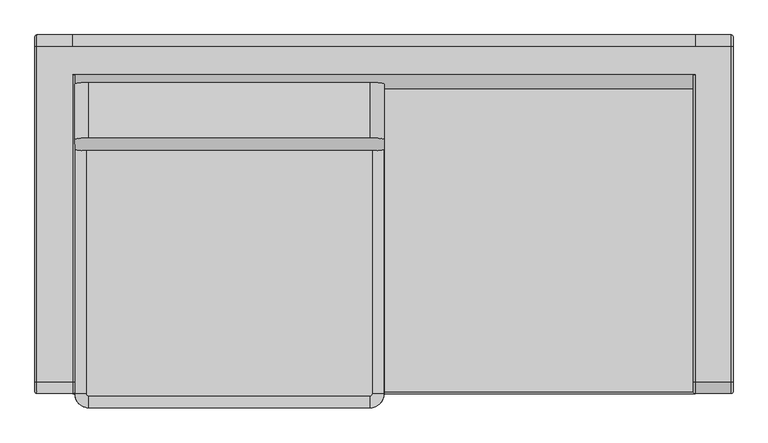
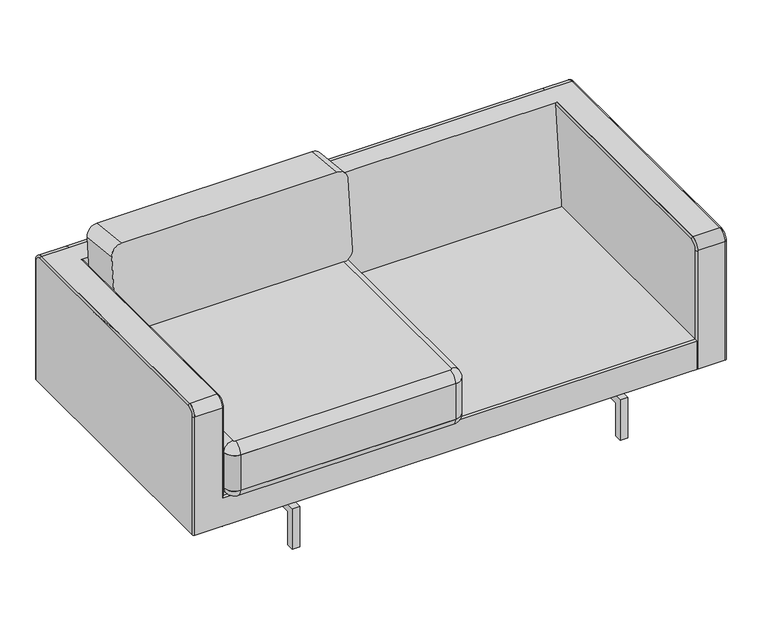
"""IFC4 building model written with IfcOpenShell, lengths in millimetres: furniture geometry, Sofa_Bensen_Lite_LIT200IT : Sofa_Bensen_Lite_LIT200IT."""

from ifc_helpers import new_model, si_unit, point, frame, frame_2d, origin, place, context, project, spatial, polyline, circle_curve, ellipse_curve, trimmed, segment, composite_curve, outline, extrude, source, transform, mapped, element, save
from ifc_brep_helpers import plane_surface, cylinder_surface, revolved_surface, advanced_brep


def furniture_c92ce7f1(model_context):
    return source(origin(), model_context, "Body", "SolidModel", [
        extrude(outline(composite_curve([segment(polyline([(-35.0, -35.0), (-35.0, 195.0)]), True, "CONTINUOUS"), segment(trimmed(circle_curve(frame_2d((0.0, 195.0)), 35.0), [point((-35.0, 195.0))], [point((0.0, 230.0))], False, "CARTESIAN"), True, "CONTINUOUS"), segment(polyline([(0.0, 230.0), (705.0, 230.0)]), True, "CONTINUOUS"), segment(trimmed(circle_curve(frame_2d((705.0, 195.0)), 35.0), [point((705.0, 230.0))], [point((740.0, 195.0))], False, "CARTESIAN"), True, "CONTINUOUS"), segment(polyline([(740.0, 195.0), (740.0, -35.0)]), True, "CONTINUOUS"), segment(trimmed(circle_curve(frame_2d((705.0, -35.0)), 35.0), [point((740.0, -35.0))], [point((705.0, -70.0))], False, "CARTESIAN"), True, "CONTINUOUS"), segment(polyline([(705.0, -70.0), (0.0, -70.0)]), True, "CONTINUOUS"), segment(trimmed(circle_curve(frame_2d((0.0, -35.0)), 35.0), [point((0.0, -70.0))], [point((-35.0, -35.0))], False, "CARTESIAN"), True, "CONTINUOUS")], self_intersect=False)), frame((-740.0, 306.1621456, 496.5659701), z_axis=(0.0, -0.9945218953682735, 0.10452846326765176), x_axis=(1.0, 0.0, 0.0)), (0.0, 0.0, 1.0), 140.0),
        advanced_brep(
        [(-35.0, -455.7516759, 445.4976523), (-30.0, -450.7516759, 445.4976523), (-30.0, 279.2483241, 445.4976523), (-35.0, 284.2483241, 445.4976523), (-740.0, 284.2483241, 445.4976523), (-745.0, 279.2483241, 445.4976523), (-745.0, -450.7516759, 445.4976523), (-740.0, -455.7516759, 445.4976523), (0.0, -450.7516759, 415.4976523), (-35.0, -485.7516759, 415.4976523), (-740.0, -485.7516759, 415.4976523), (-775.0, -450.7516759, 415.4976523), (-775.0, 279.2483241, 415.4976523), (-740.0, 314.2483241, 415.4976523), (-35.0, 314.2483241, 415.4976523), (0.0, 279.2483241, 415.4976523)],
        [
            (0, 1, circle_curve(frame((-35.0, -450.7516759, 445.4976523), z_axis=(0.0, 0.0, 1.0), x_axis=(1.0, 0.0, 0.0)), 5.0)),
            (1, 2),
            (2, 3, circle_curve(frame((-35.0, 279.2483241, 445.4976523), z_axis=(0.0, 0.0, 1.0), x_axis=(0.0, 1.0, 0.0)), 5.0)),
            (3, 4),
            (4, 5, circle_curve(frame((-740.0, 279.2483241, 445.4976523), z_axis=(0.0, 0.0, 1.0), x_axis=(-1.0, 0.0, 0.0)), 5.0)),
            (5, 6),
            (6, 7, circle_curve(frame((-740.0, -450.7516759, 445.4976523), z_axis=(0.0, 0.0, 1.0), x_axis=(0.0, -1.0, 0.0)), 5.0)),
            (7, 0),
            (8, 9, circle_curve(frame((-35.0, -450.7516759, 415.4976523), z_axis=(0.0, 0.0, -1.0), x_axis=(1.0, 0.0, 0.0)), 35.0)),
            (9, 10),
            (10, 11, circle_curve(frame((-740.0, -450.7516759, 415.4976523), z_axis=(0.0, 0.0, -1.0), x_axis=(0.0, -1.0, 0.0)), 35.0)),
            (11, 12),
            (12, 13, circle_curve(frame((-740.0, 279.2483241, 415.4976523), z_axis=(0.0, 0.0, -1.0), x_axis=(-1.0, 0.0, 0.0)), 35.0)),
            (13, 14),
            (14, 15, circle_curve(frame((-35.0, 279.2483241, 415.4976523), z_axis=(0.0, 0.0, -1.0), x_axis=(0.0, 1.0, 0.0)), 35.0)),
            (15, 8),
            (8, 1, circle_curve(frame((-30.0, -450.7516759, 415.4976523), z_axis=(0.0, -1.0, 0.0), x_axis=(1.0, 0.0, 0.0)), 30.0)),
            (0, 9, circle_curve(frame((-35.0, -455.7516759, 415.4976523), z_axis=(1.0, 0.0, 0.0), x_axis=(0.0, -1.0, 0.0)), 30.0)),
            (7, 10, circle_curve(frame((-740.0, -455.7516759, 415.4976523), z_axis=(1.0, 0.0, 0.0), x_axis=(0.0, -1.0, 0.0)), 30.0)),
            (6, 11, circle_curve(frame((-745.0, -450.7516759, 415.4976523), z_axis=(0.0, -1.0, 0.0), x_axis=(-1.0, 0.0, 0.0)), 30.0)),
            (5, 12, circle_curve(frame((-745.0, 279.2483241, 415.4976523), z_axis=(0.0, -1.0, 0.0), x_axis=(-1.0, 0.0, 0.0)), 30.0)),
            (4, 13, circle_curve(frame((-740.0, 284.2483241, 415.4976523), z_axis=(-1.0, 0.0, 0.0), x_axis=(0.0, 1.0, 0.0)), 30.0)),
            (3, 14, circle_curve(frame((-35.0, 284.2483241, 415.4976523), z_axis=(-1.0, 0.0, 0.0), x_axis=(0.0, 1.0, 0.0)), 30.0)),
            (2, 15, circle_curve(frame((-30.0, 279.2483241, 415.4976523), z_axis=(0.0, 1.0, 0.0), x_axis=(1.0, 0.0, 0.0)), 30.0)),
        ],
        [
            plane_surface(frame((-35.0, 274.2483241, 445.4976523), z_axis=(0.0, 0.0, 1.0), x_axis=(1.0, 0.0, 0.0))),
            plane_surface(frame((-35.0, 274.2483241, 415.4976523), z_axis=(0.0, 0.0, -1.0), x_axis=(-1.0, 0.0, 0.0))),
            revolved_surface(trimmed(ellipse_curve(frame((-30.0, -450.7516759, 415.4976523), z_axis=(0.0, 1.0, 0.0), x_axis=(1.0, 0.0, 0.0)), 30.0, 30.0), [point((-30.0, -450.7516759, 445.4976523))], [point((0.0, -450.7516759, 415.4976523))], True, "CARTESIAN"), (-35.0, -450.7516759, 245.4976523), (0.0, 0.0, -1.0)),
            cylinder_surface(frame((-35.0, -455.7516759, 415.4976523), z_axis=(1.0, 0.0, 0.0), x_axis=(0.0, -1.0, 0.0)), 30.0),
            revolved_surface(trimmed(ellipse_curve(frame((-740.0, -455.7516759, 415.4976523), z_axis=(1.0, 0.0, 0.0), x_axis=(0.0, -1.0, 0.0)), 30.0, 30.0), [point((-740.0, -455.7516759, 445.4976523))], [point((-740.0, -485.7516759, 415.4976523))], True, "CARTESIAN"), (-740.0, -450.7516759, 245.4976523), (0.0, 0.0, -1.0)),
            cylinder_surface(frame((-745.0, -450.7516759, 415.4976523), z_axis=(0.0, -1.0, 0.0), x_axis=(-1.0, 0.0, 0.0)), 30.0),
            revolved_surface(trimmed(ellipse_curve(frame((-745.0, 279.2483241, 415.4976523), z_axis=(0.0, -1.0, 0.0), x_axis=(-1.0, 0.0, 0.0)), 30.0, 30.0), [point((-745.0, 279.2483241, 445.4976523))], [point((-775.0, 279.2483241, 415.4976523))], True, "CARTESIAN"), (-740.0, 279.2483241, 245.4976523), (0.0, 0.0, -1.0)),
            cylinder_surface(frame((-740.0, 284.2483241, 415.4976523), z_axis=(-1.0, 0.0, 0.0), x_axis=(0.0, 1.0, 0.0)), 30.0),
            revolved_surface(trimmed(ellipse_curve(frame((-35.0, 284.2483241, 415.4976523), z_axis=(-1.0, 0.0, 0.0), x_axis=(0.0, 1.0, 0.0)), 30.0, 30.0), [point((-35.0, 284.2483241, 445.4976523))], [point((-35.0, 314.2483241, 415.4976523))], True, "CARTESIAN"), (-35.0, 279.2483241, 245.4976523), (0.0, 0.0, -1.0)),
            cylinder_surface(frame((-30.0, 279.2483241, 415.4976523), z_axis=(0.0, 1.0, 0.0), x_axis=(1.0, 0.0, 0.0)), 30.0),
        ],
        [
            (0, [[1, 2, 3, 4, 5, 6, 7, 8]]),
            (1, [[9, 10, 11, 12, 13, 14, 15, 16]]),
            (2, [[-9, 17, -1, 18]]),
            (3, [[-18, -8, 19, -10]]),
            (4, [[-19, -7, 20, -11]]),
            (5, [[-20, -6, 21, -12]]),
            (6, [[-21, -5, 22, -13]]),
            (7, [[-22, -4, 23, -14]]),
            (8, [[-23, -3, 24, -15]]),
            (9, [[-17, -16, -24, -2]]),
        ],
    ),
        advanced_brep(
        [(-35.0, -485.7516759, 291.4976523), (0.0, -450.7516759, 291.4976523), (0.0, 279.2483241, 291.4976523), (-35.0, 314.2483241, 291.4976523), (-740.0, 314.2483241, 291.4976523), (-775.0, 279.2483241, 291.4976523), (-775.0, -450.7516759, 291.4976523), (-740.0, -485.7516759, 291.4976523), (-30.0, -450.7516759, 261.4976523), (-35.0, -455.7516759, 261.4976523), (-740.0, -455.7516759, 261.4976523), (-745.0, -450.7516759, 261.4976523), (-745.0, 279.2483241, 261.4976523), (-740.0, 284.2483241, 261.4976523), (-35.0, 284.2483241, 261.4976523), (-30.0, 279.2483241, 261.4976523)],
        [
            (0, 1, circle_curve(frame((-35.0, -450.7516759, 291.4976523), z_axis=(0.0, 0.0, 1.0), x_axis=(1.0, 0.0, 0.0)), 35.0)),
            (1, 2),
            (2, 3, circle_curve(frame((-35.0, 279.2483241, 291.4976523), z_axis=(0.0, 0.0, 1.0), x_axis=(0.0, 1.0, 0.0)), 35.0)),
            (3, 4),
            (4, 5, circle_curve(frame((-740.0, 279.2483241, 291.4976523), z_axis=(0.0, 0.0, 1.0), x_axis=(-1.0, 0.0, 0.0)), 35.0)),
            (5, 6),
            (6, 7, circle_curve(frame((-740.0, -450.7516759, 291.4976523), z_axis=(0.0, 0.0, 1.0), x_axis=(0.0, -1.0, 0.0)), 35.0)),
            (7, 0),
            (8, 9, circle_curve(frame((-35.0, -450.7516759, 261.4976523), z_axis=(0.0, 0.0, -1.0), x_axis=(1.0, 0.0, 0.0)), 5.0)),
            (9, 10),
            (10, 11, circle_curve(frame((-740.0, -450.7516759, 261.4976523), z_axis=(0.0, 0.0, -1.0), x_axis=(0.0, -1.0, 0.0)), 5.0)),
            (11, 12),
            (12, 13, circle_curve(frame((-740.0, 279.2483241, 261.4976523), z_axis=(0.0, 0.0, -1.0), x_axis=(-1.0, 0.0, 0.0)), 5.0)),
            (13, 14),
            (14, 15, circle_curve(frame((-35.0, 279.2483241, 261.4976523), z_axis=(0.0, 0.0, -1.0), x_axis=(0.0, 1.0, 0.0)), 5.0)),
            (15, 8),
            (8, 1, circle_curve(frame((-30.0, -450.7516759, 291.4976523), z_axis=(0.0, -1.0, 0.0), x_axis=(1.0, 0.0, 0.0)), 30.0)),
            (0, 9, circle_curve(frame((-35.0, -455.7516759, 291.4976523), z_axis=(1.0, 0.0, 0.0), x_axis=(0.0, -1.0, 0.0)), 30.0)),
            (7, 10, circle_curve(frame((-740.0, -455.7516759, 291.4976523), z_axis=(1.0, 0.0, 0.0), x_axis=(0.0, -1.0, 0.0)), 30.0)),
            (6, 11, circle_curve(frame((-745.0, -450.7516759, 291.4976523), z_axis=(0.0, -1.0, 0.0), x_axis=(-1.0, 0.0, 0.0)), 30.0)),
            (5, 12, circle_curve(frame((-745.0, 279.2483241, 291.4976523), z_axis=(0.0, -1.0, 0.0), x_axis=(-1.0, 0.0, 0.0)), 30.0)),
            (4, 13, circle_curve(frame((-740.0, 284.2483241, 291.4976523), z_axis=(-1.0, 0.0, 0.0), x_axis=(0.0, 1.0, 0.0)), 30.0)),
            (3, 14, circle_curve(frame((-35.0, 284.2483241, 291.4976523), z_axis=(-1.0, 0.0, 0.0), x_axis=(0.0, 1.0, 0.0)), 30.0)),
            (2, 15, circle_curve(frame((-30.0, 279.2483241, 291.4976523), z_axis=(0.0, 1.0, 0.0), x_axis=(1.0, 0.0, 0.0)), 30.0)),
        ],
        [
            plane_surface(frame((-35.0, 274.2483241, 291.4976523), z_axis=(0.0, 0.0, 1.0), x_axis=(1.0, 0.0, 0.0))),
            plane_surface(frame((-35.0, 274.2483241, 261.4976523), z_axis=(0.0, 0.0, -1.0), x_axis=(-1.0, 0.0, 0.0))),
            revolved_surface(trimmed(ellipse_curve(frame((-30.0, -450.7516759, 291.4976523), z_axis=(0.0, 1.0, 0.0), x_axis=(1.0, 0.0, 0.0)), 30.0, 30.0), [point((0.0, -450.7516759, 291.4976523))], [point((-30.0, -450.7516759, 261.4976523))], True, "CARTESIAN"), (-35.0, -450.7516759, 291.4976523), (0.0, 0.0, -1.0)),
            cylinder_surface(frame((-35.0, -455.7516759, 291.4976523), z_axis=(1.0, 0.0, 0.0), x_axis=(0.0, -1.0, 0.0)), 30.0),
            revolved_surface(trimmed(ellipse_curve(frame((-740.0, -455.7516759, 291.4976523), z_axis=(1.0, 0.0, 0.0), x_axis=(0.0, -1.0, 0.0)), 30.0, 30.0), [point((-740.0, -485.7516759, 291.4976523))], [point((-740.0, -455.7516759, 261.4976523))], True, "CARTESIAN"), (-740.0, -450.7516759, 291.4976523), (0.0, 0.0, -1.0)),
            cylinder_surface(frame((-745.0, -450.7516759, 291.4976523), z_axis=(0.0, -1.0, 0.0), x_axis=(-1.0, 0.0, 0.0)), 30.0),
            revolved_surface(trimmed(ellipse_curve(frame((-745.0, 279.2483241, 291.4976523), z_axis=(0.0, -1.0, 0.0), x_axis=(-1.0, 0.0, 0.0)), 30.0, 30.0), [point((-775.0, 279.2483241, 291.4976523))], [point((-745.0, 279.2483241, 261.4976523))], True, "CARTESIAN"), (-740.0, 279.2483241, 291.4976523), (0.0, 0.0, -1.0)),
            cylinder_surface(frame((-740.0, 284.2483241, 291.4976523), z_axis=(-1.0, 0.0, 0.0), x_axis=(0.0, 1.0, 0.0)), 30.0),
            revolved_surface(trimmed(ellipse_curve(frame((-35.0, 284.2483241, 291.4976523), z_axis=(-1.0, 0.0, 0.0), x_axis=(0.0, 1.0, 0.0)), 30.0, 30.0), [point((-35.0, 314.2483241, 291.4976523))], [point((-35.0, 284.2483241, 261.4976523))], True, "CARTESIAN"), (-35.0, 279.2483241, 291.4976523), (0.0, 0.0, -1.0)),
            cylinder_surface(frame((-30.0, 279.2483241, 291.4976523), z_axis=(0.0, 1.0, 0.0), x_axis=(1.0, 0.0, 0.0)), 30.0),
        ],
        [
            (0, [[1, 2, 3, 4, 5, 6, 7, 8]]),
            (1, [[9, 10, 11, 12, 13, 14, 15, 16]]),
            (2, [[17, -1, 18, -9]]),
            (3, [[-18, -8, 19, -10]]),
            (4, [[-19, -7, 20, -11]]),
            (5, [[-20, -6, 21, -12]]),
            (6, [[-21, -5, 22, -13]]),
            (7, [[-22, -4, 23, -14]]),
            (8, [[-23, -3, 24, -15]]),
            (9, [[-17, -16, -24, -2]]),
        ],
    ),
        extrude(outline(composite_curve([segment(polyline([(0.0, 279.2483241), (0.0, -450.7516759)]), True, "CONTINUOUS"), segment(trimmed(circle_curve(frame_2d((-35.0, -450.7516759)), 35.0), [point((0.0, -450.7516759))], [point((-35.0, -485.7516759))], False, "CARTESIAN"), True, "CONTINUOUS"), segment(polyline([(-35.0, -485.7516759), (-740.0, -485.7516759)]), True, "CONTINUOUS"), segment(trimmed(circle_curve(frame_2d((-740.0, -450.7516759)), 35.0), [point((-740.0, -485.7516759))], [point((-775.0, -450.7516759))], False, "CARTESIAN"), True, "CONTINUOUS"), segment(polyline([(-775.0, -450.7516759), (-775.0, 279.2483241)]), True, "CONTINUOUS"), segment(trimmed(circle_curve(frame_2d((-740.0, 279.2483241)), 35.0), [point((-775.0, 279.2483241))], [point((-740.0, 314.2483241))], False, "CARTESIAN"), True, "CONTINUOUS"), segment(polyline([(-740.0, 314.2483241), (-35.0, 314.2483241)]), True, "CONTINUOUS"), segment(trimmed(circle_curve(frame_2d((-35.0, 279.2483241)), 35.0), [point((-35.0, 314.2483241))], [point((0.0, 279.2483241))], False, "CARTESIAN"), True, "CONTINUOUS")], self_intersect=False)), frame((0.0, 0.0, 291.4976523), z_axis=(0.0, 0.0, 1.0), x_axis=(1.0, 0.0, 0.0)), (0.0, 0.0, 1.0), 124.0),
        extrude(outline(polyline([(525.6355488, 373.3510084), (550.6355488, 373.3510084), (550.6355488, 322.254848), (525.6355488, 322.254848), (525.6355488, 373.3510084)])), frame((0.0, 0.0, 140.4877923), z_axis=(0.0, 0.0, 1.0), x_axis=(1.0, 0.0, 0.0)), (0.0, 0.0, 1.0), 18.8951516),
        extrude(outline(polyline([(525.6355488, -322.3164889), (550.6355488, -322.3164889), (550.6355488, -373.4149666), (525.6355488, -373.4149666), (525.6355488, -322.3164889)])), frame((0.0, 0.0, 140.4877923), z_axis=(0.0, 0.0, 1.0), x_axis=(1.0, 0.0, 0.0)), (0.0, 0.0, 1.0), 18.8951516),
        extrude(outline(polyline([(449.998725, 140.4877923), (449.998725, 0.0), (424.4506448, 0.0), (424.4506448, 114.9721541), (-424.4694158, 114.9721541), (-424.4694158, 0.0), (-450.0001164, 0.0), (-450.0001164, 140.4877923), (449.998725, 140.4877923)])), frame((525.6355488, 0.0, 0.0), z_axis=(1.0, 0.0, 0.0), x_axis=(0.0, 1.0, 0.0)), (0.0, 0.0, 1.0), 25.0),
        extrude(outline(polyline([(-525.6355488, 373.3510084), (-525.6355488, 322.254848), (-550.6355488, 322.254848), (-550.6355488, 373.3510084), (-525.6355488, 373.3510084)])), frame((0.0, 0.0, 140.4877923), z_axis=(0.0, 0.0, 1.0), x_axis=(1.0, 0.0, 0.0)), (0.0, 0.0, 1.0), 18.8951516),
        extrude(outline(polyline([(-525.6355488, -322.3164889), (-525.6355488, -373.4149666), (-550.6355488, -373.4149666), (-550.6355488, -322.3164889), (-525.6355488, -322.3164889)])), frame((0.0, 0.0, 140.4877923), z_axis=(0.0, 0.0, 1.0), x_axis=(1.0, 0.0, 0.0)), (0.0, 0.0, 1.0), 18.8951516),
        extrude(outline(polyline([(449.998725, 140.4877923), (449.998725, 0.0), (424.4506448, 0.0), (424.4506448, 114.9721541), (-424.4694158, 114.9721541), (-424.4694158, 0.0), (-450.0001164, 0.0), (-450.0001164, 140.4877923), (449.998725, 140.4877923)])), frame((-550.6355488, 0.0, 0.0), z_axis=(1.0, 0.0, 0.0), x_axis=(0.0, 1.0, 0.0)), (0.0, 0.0, 1.0), 25.0),
        advanced_brep(
        [(774.9999999, 349.998725, 594.9427565), (779.9999999, 349.998725, 599.9427565), (779.9999999, 349.998725, 229.8004127), (775.0, 349.998725, 229.8004127), (774.9999999, -419.9987249, 594.9427565), (779.9999999, -419.9987249, 599.9427565), (779.9999999, -449.9987249, 569.9427565), (779.9999999, -449.9987249, 159.3829439), (779.9999999, -444.9987249, 159.3829439), (779.9999999, -444.9987249, 229.8004127), (774.9999999, -444.9987249, 569.9427565), (774.9999999, -444.9987249, 159.3829439), (774.9999999, -444.9987249, 229.8004127)],
        [
            (0, 1, circle_curve(frame((779.9999999, 349.998725, 594.9427565), z_axis=(0.0, 1.0, 0.0), x_axis=(0.0, 0.0, 1.0)), 5.0)),
            (1, 2),
            (2, 3),
            (3, 0),
            (0, 4),
            (4, 5, circle_curve(frame((779.9999999, -419.9987249, 594.9427565), z_axis=(0.0, 1.0, 0.0), x_axis=(0.0, 0.0, 1.0)), 5.0)),
            (5, 1),
            (5, 6, circle_curve(frame((779.9999999, -419.9987249, 569.9427565), z_axis=(1.0, 0.0, 0.0), x_axis=(0.0, 0.0, 1.0)), 30.0)),
            (6, 7),
            (7, 8),
            (8, 9),
            (9, 2),
            (4, 10, circle_curve(frame((774.9999999, -419.9987249, 569.9427565), z_axis=(1.0, 0.0, 0.0), x_axis=(0.0, 0.0, 1.0)), 25.0)),
            (10, 6, circle_curve(frame((779.9999999, -444.9987249, 569.9427565), z_axis=(0.0, 0.0, 1.0), x_axis=(0.0, -1.0, 0.0)), 5.0)),
            (7, 11, circle_curve(frame((779.9999999, -444.9987249, 159.3829439), z_axis=(0.0, 0.0, -1.0), x_axis=(0.0, -1.0, 0.0)), 5.0)),
            (11, 8),
            (11, 12),
            (12, 9),
            (10, 12),
            (3, 12),
        ],
        [
            plane_surface(frame((469.9999999, 349.998725, 599.9427565), z_axis=(0.0, 1.0, 0.0), x_axis=(1.0, 0.0, 0.0))),
            cylinder_surface(frame((779.9999999, 349.998725, 594.9427565), z_axis=(0.0, 1.0, 0.0), x_axis=(0.0, 0.0, 1.0)), 5.0),
            plane_surface(frame((779.9999999, 349.998725, 599.9427565), z_axis=(1.0, 0.0, 0.0), x_axis=(0.0, -1.0, 0.0))),
            revolved_surface(trimmed(ellipse_curve(frame((779.9999999, -419.9987249, 594.9427565), z_axis=(0.0, 1.0, 0.0), x_axis=(0.0, 0.0, 1.0)), 5.0, 5.0), [point((774.9999999, -419.9987249, 594.9427565))], [point((779.9999999, -419.9987249, 599.9427565))], True, "CARTESIAN"), (469.9999999, -419.9987249, 569.9427565), (1.0, 0.0, 0.0)),
            plane_surface(frame((469.9999999, -449.9987249, 159.3829439), z_axis=(0.0, 0.0, -1.0), x_axis=(1.0, 0.0, 0.0))),
            plane_surface(frame((779.9999999, -444.9987249, 569.9427565), z_axis=(0.0, 1.0, 0.0), x_axis=(0.0, 0.0, -1.0))),
            cylinder_surface(frame((779.9999999, -444.9987249, 569.9427565), z_axis=(0.0, 0.0, 1.0), x_axis=(0.0, -1.0, 0.0)), 5.0),
            plane_surface(frame((775.0, -394.9987249, 569.9427565), z_axis=(-1.0, 0.0, 0.0), x_axis=(0.0, 0.0, -1.0))),
            plane_surface(frame((779.9999999, -444.9987249, 229.8004127), z_axis=(0.0, 0.0, -1.0), x_axis=(-1.0, 0.0, 0.0))),
        ],
        [
            (0, [[1, 2, 3, 4]]),
            (1, [[-1, 5, 6, 7]]),
            (2, [[-2, -7, 8, 9, 10, 11, 12]]),
            (3, [[-6, 13, 14, -8]]),
            (4, [[-10, 15, 16]]),
            (5, [[-16, 17, 18, -11]]),
            (6, [[-9, -14, 19, -17, -15]]),
            (7, [[-4, 20, -19, -13, -5]]),
            (8, [[-12, -18, -20, -3]]),
        ],
    ),
        advanced_brep(
        [(870.0, 449.998725, 159.3412327), (875.0, 444.998725, 159.3412327), (875.0, -444.9987249, 159.3412327), (870.0, -449.9987249, 159.3412327), (875.0, 419.998725, 594.9427565), (870.0, 419.998725, 599.9427565), (870.0, -419.9987249, 599.9427565), (875.0, -419.9987249, 594.9427565), (870.0, -449.9987249, 569.9427565), (875.0, -444.9987249, 569.9427565), (870.0, 449.998725, 569.9427565), (875.0, 444.998725, 569.9427565)],
        [
            (0, 1, circle_curve(frame((870.0, 444.998725, 159.3412327), z_axis=(0.0, 0.0, -1.0), x_axis=(-1.0, 0.0, 0.0)), 5.0)),
            (1, 2),
            (2, 3, circle_curve(frame((870.0, -444.9987249, 159.3412327), z_axis=(0.0, 0.0, -1.0), x_axis=(-1.0, 0.0, 0.0)), 5.0)),
            (3, 0),
            (4, 5, circle_curve(frame((870.0, 419.998725, 594.9427565), z_axis=(0.0, -1.0, 0.0), x_axis=(-1.0, 0.0, 0.0)), 5.0)),
            (5, 6),
            (6, 7, circle_curve(frame((870.0, -419.9987249, 594.9427565), z_axis=(0.0, 1.0, 0.0), x_axis=(-1.0, 0.0, 0.0)), 5.0)),
            (7, 4),
            (6, 8, circle_curve(frame((870.0, -419.9987249, 569.9427565), z_axis=(1.0, 0.0, 0.0), x_axis=(0.0, 0.0, 1.0)), 30.0)),
            (8, 9, circle_curve(frame((870.0, -444.9987249, 569.9427565), z_axis=(0.0, 0.0, 1.0), x_axis=(-1.0, 0.0, 0.0)), 5.0)),
            (9, 7, circle_curve(frame((875.0, -419.9987249, 569.9427565), z_axis=(-1.0, 0.0, 0.0), x_axis=(0.0, 0.0, 1.0)), 25.0)),
            (8, 3),
            (2, 9),
            (0, 10),
            (10, 11, circle_curve(frame((870.0, 444.998725, 569.9427565), z_axis=(0.0, 0.0, -1.0), x_axis=(-1.0, 0.0, 0.0)), 5.0)),
            (11, 1),
            (5, 10, circle_curve(frame((870.0, 419.998725, 569.9427565), z_axis=(-1.0, 0.0, 0.0), x_axis=(0.0, 1.0, 0.0)), 30.0)),
            (4, 11, circle_curve(frame((875.0, 419.998725, 569.9427565), z_axis=(-1.0, 0.0, 0.0), x_axis=(0.0, 1.0, 0.0)), 25.0)),
        ],
        [
            plane_surface(frame((390.0, 449.998725, 159.3412327), z_axis=(0.0, 0.0, -1.0), x_axis=(-1.0, 0.0, 0.0))),
            cylinder_surface(frame((870.0, 419.998725, 594.9427565), z_axis=(0.0, 1.0, 0.0), x_axis=(-1.0, 0.0, 0.0)), 5.0),
            revolved_surface(trimmed(ellipse_curve(frame((870.0, -419.9987249, 594.9427565), z_axis=(0.0, 1.0, 0.0), x_axis=(-1.0, 0.0, 0.0)), 5.0, 5.0), [point((870.0, -419.9987249, 599.9427565))], [point((875.0, -419.9987249, 594.9427565))], True, "CARTESIAN"), (390.0, -419.9987249, 569.9427565), (1.0, 0.0, 0.0)),
            cylinder_surface(frame((870.0, -444.9987249, 569.9427565), z_axis=(0.0, 0.0, 1.0), x_axis=(-1.0, 0.0, 0.0)), 5.0),
            cylinder_surface(frame((870.0, 444.998725, 159.3412327), z_axis=(0.0, 0.0, -1.0), x_axis=(-1.0, 0.0, 0.0)), 5.0),
            plane_surface(frame((870.0, 444.998725, 159.3412327), z_axis=(-1.0, 0.0, 0.0), x_axis=(0.0, 0.0, 1.0))),
            revolved_surface(trimmed(ellipse_curve(frame((870.0, 444.998725, 569.9427565), z_axis=(0.0, 0.0, -1.0), x_axis=(-1.0, 0.0, 0.0)), 5.0, 5.0), [point((870.0, 449.998725, 569.9427565))], [point((875.0, 444.998725, 569.9427565))], True, "CARTESIAN"), (390.0, 419.998725, 569.9427565), (1.0, 0.0, 0.0)),
            plane_surface(frame((875.0, 444.998725, 569.9427565), z_axis=(1.0, 0.0, 0.0), x_axis=(0.0, 0.0, 1.0))),
        ],
        [
            (0, [[1, 2, 3, 4]]),
            (1, [[5, 6, 7, 8]]),
            (2, [[-7, 9, 10, 11]]),
            (3, [[-10, 12, -3, 13]]),
            (4, [[-1, 14, 15, 16]]),
            (5, [[-4, -12, -9, -6, 17, -14]]),
            (6, [[-5, 18, -15, -17]]),
            (7, [[-2, -16, -18, -8, -11, -13]]),
        ],
    ),
        advanced_brep(
        [(-779.9999999, 349.998725, 599.9427565), (779.9999999, 349.998725, 599.9427565), (779.9999999, -419.9987249, 599.9427565), (870.0, -419.9987249, 599.9427565), (870.0, 419.998725, 599.9427565), (779.9999999, 419.998725, 599.9427565), (-779.9999999, 419.998725, 599.9427565), (-870.0, 419.998725, 599.9427565), (-870.0, -419.9987249, 599.9427565), (-779.9999999, -419.9987249, 599.9427565), (-779.9999999, 449.998725, 569.9427565), (779.9999999, 449.998725, 569.9427565), (870.0, 449.998725, 569.9427565), (870.0, 449.998725, 159.3829439), (-870.0, 449.998725, 159.3829439), (-870.0, 449.998725, 569.9427565), (-870.0, -449.9987249, 159.3412327), (870.0, -449.9987249, 159.3412327), (-779.9999999, 314.4267111, 261.4976523), (779.9999999, 314.4267111, 261.4976523), (-779.9999999, -449.9987249, 569.9427565), (-779.9999999, -449.9987249, 256.4976523), (-779.9999999, -444.9987249, 261.4976523), (-870.0, -449.9987249, 569.9427565), (870.0, -449.9987249, 569.9427565), (779.9999999, -449.9987249, 569.9427565), (779.9999999, -449.9987249, 256.4976523), (779.9999999, -444.9987249, 261.4976523)],
        [
            (0, 1),
            (1, 2),
            (2, 3),
            (3, 4),
            (4, 5),
            (5, 6),
            (6, 7),
            (7, 8),
            (8, 9),
            (9, 0),
            (10, 11),
            (11, 12),
            (12, 13),
            (13, 14),
            (14, 15),
            (15, 10),
            (16, 14),
            (13, 17),
            (17, 16),
            (0, 18),
            (18, 19),
            (19, 1),
            (5, 11, circle_curve(frame((779.9999999, 419.998725, 569.9427565), z_axis=(-1.0, 0.0, 0.0), x_axis=(0.0, -1.0, 0.0)), 30.0)),
            (10, 6, circle_curve(frame((-779.9999999, 419.998725, 569.9427565), z_axis=(1.0, 0.0, 0.0), x_axis=(0.0, -1.0, 0.0)), 30.0)),
            (9, 20, circle_curve(frame((-779.9999999, -419.9987249, 569.9427565), z_axis=(1.0, 0.0, 0.0), x_axis=(0.0, -1.0, 0.0)), 30.0)),
            (20, 21),
            (21, 22, circle_curve(frame((-779.9999999, -444.9987249, 256.4976523), z_axis=(-1.0, 0.0, 0.0), x_axis=(0.0, -1.0, 0.0)), 5.0)),
            (22, 18),
            (7, 15, circle_curve(frame((-870.0, 419.998725, 569.9427565), z_axis=(-1.0, 0.0, 0.0), x_axis=(0.0, -1.0, 0.0)), 30.0)),
            (16, 23),
            (23, 8, circle_curve(frame((-870.0, -419.9987249, 569.9427565), z_axis=(-1.0, 0.0, 0.0), x_axis=(0.0, -1.0, 0.0)), 30.0)),
            (23, 20),
            (17, 24),
            (24, 25),
            (25, 26),
            (26, 21),
            (22, 27),
            (27, 19),
            (26, 27, circle_curve(frame((779.9999999, -444.9987249, 256.4976523), z_axis=(-1.0, 0.0, 0.0), x_axis=(0.0, -1.0, 0.0)), 5.0)),
            (25, 2, circle_curve(frame((779.9999999, -419.9987249, 569.9427565), z_axis=(-1.0, 0.0, 0.0), x_axis=(0.0, -1.0, 0.0)), 30.0)),
            (3, 24, circle_curve(frame((870.0, -419.9987249, 569.9427565), z_axis=(1.0, 0.0, 0.0), x_axis=(0.0, -1.0, 0.0)), 30.0)),
            (12, 4, circle_curve(frame((870.0, 419.998725, 569.9427565), z_axis=(1.0, 0.0, 0.0), x_axis=(0.0, -1.0, 0.0)), 30.0)),
        ],
        [
            plane_surface(frame((-779.9999999, 349.998725, 599.9427565), z_axis=(0.0, 0.0, 1.0), x_axis=(1.0, 0.0, 0.0))),
            plane_surface(frame((-779.9999999, 449.998725, 569.9427565), z_axis=(0.0, 1.0, 0.0), x_axis=(1.0, 0.0, 0.0))),
            plane_surface(frame((-779.9999999, 449.998725, 159.3412327), z_axis=(0.0, 0.0, -1.0), x_axis=(1.0, 0.0, 0.0))),
            plane_surface(frame((-779.9999999, 303.6896388, 159.3412327), z_axis=(0.0, -0.9945218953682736, 0.1045284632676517), x_axis=(1.0, 0.0, 0.0))),
            cylinder_surface(frame((779.9999999, 419.998725, 569.9427565), z_axis=(-1.0, 0.0, 0.0), x_axis=(0.0, -1.0, 0.0)), 30.0),
            plane_surface(frame((-779.9999999, -449.9987249, 569.9427565), z_axis=(1.0, 0.0, 0.0), x_axis=(0.0, 0.0, -1.0))),
            plane_surface(frame((-870.0, -449.9987249, 569.9427565), z_axis=(-1.0, 0.0, 0.0), x_axis=(0.0, 0.0, 1.0))),
            cylinder_surface(frame((-870.0, -419.9987249, 569.9427565), z_axis=(1.0, 0.0, 0.0), x_axis=(0.0, -1.0, 0.0)), 30.0),
            plane_surface(frame((-779.9999999, -449.9987249, 569.9427565), z_axis=(0.0, -1.0, 0.0), x_axis=(-1.0, 0.0, 0.0))),
            cylinder_surface(frame((-870.0, 419.998725, 569.9427565), z_axis=(1.0, 0.0, 0.0), x_axis=(0.0, -1.0, 0.0)), 30.0),
            plane_surface(frame((779.9999999, 314.4267111, 261.4976523), z_axis=(0.0, 0.0, 1.0), x_axis=(-1.0, 0.0, 0.0))),
            cylinder_surface(frame((-779.9999999, -444.9987249, 256.4976523), z_axis=(1.0, 0.0, 0.0), x_axis=(0.0, -1.0, 0.0)), 5.0),
            plane_surface(frame((779.9999999, 449.998725, 599.9427565), z_axis=(-1.0, 0.0, 0.0), x_axis=(0.0, 1.0, 0.0))),
            plane_surface(frame((870.0, 449.998725, 599.9427565), z_axis=(1.0, 0.0, 0.0), x_axis=(0.0, -1.0, 0.0))),
            cylinder_surface(frame((870.0, -419.9987249, 569.9427565), z_axis=(-1.0, 0.0, 0.0), x_axis=(0.0, -1.0, 0.0)), 30.0),
            cylinder_surface(frame((870.0, 419.998725, 569.9427565), z_axis=(-1.0, 0.0, 0.0), x_axis=(0.0, -1.0, 0.0)), 30.0),
        ],
        [
            (0, [[1, 2, 3, 4, 5, 6, 7, 8, 9, 10]]),
            (1, [[11, 12, 13, 14, 15, 16]]),
            (2, [[17, -14, 18, 19]]),
            (3, [[-1, 20, 21, 22]]),
            (4, [[-6, 23, -11, 24]]),
            (5, [[25, 26, 27, 28, -20, -10]]),
            (6, [[-8, 29, -15, -17, 30, 31]]),
            (7, [[-25, -9, -31, 32]]),
            (8, [[-30, -19, 33, 34, 35, 36, -26, -32]]),
            (9, [[-29, -7, -24, -16]]),
            (10, [[37, 38, -21, -28]]),
            (11, [[-36, 39, -37, -27]]),
            (12, [[40, -2, -22, -38, -39, -35]]),
            (13, [[41, -33, -18, -13, 42, -4]]),
            (14, [[-40, -34, -41, -3]]),
            (15, [[-42, -12, -23, -5]]),
        ],
    ),
        advanced_brep(
        [(-779.9999999, 349.998725, 599.9427565), (-774.9999999, 349.998725, 594.9427565), (-775.0, 349.998725, 229.8004127), (-779.9999999, 349.998725, 229.8004127), (-779.9999999, -419.9987249, 599.9427565), (-774.9999999, -419.9987249, 594.9427565), (-779.9999999, -444.9987249, 229.8004127), (-779.9999999, -444.9987249, 159.3829439), (-779.9999999, -449.9987249, 159.3829439), (-779.9999999, -449.9987249, 569.9427565), (-774.9999999, -444.9987249, 569.9427565), (-774.9999999, -444.9987249, 159.3829439), (-774.9999999, -444.9987249, 229.8004127)],
        [
            (0, 1, circle_curve(frame((-779.9999999, 349.998725, 594.9427565), z_axis=(0.0, 1.0, 0.0), x_axis=(0.0, 0.0, 1.0)), 5.0)),
            (1, 2),
            (2, 3),
            (3, 0),
            (0, 4),
            (4, 5, circle_curve(frame((-779.9999999, -419.9987249, 594.9427565), z_axis=(0.0, 1.0, 0.0), x_axis=(0.0, 0.0, 1.0)), 5.0)),
            (5, 1),
            (3, 6),
            (6, 7),
            (7, 8),
            (8, 9),
            (9, 4, circle_curve(frame((-779.9999999, -419.9987249, 569.9427565), z_axis=(-1.0, 0.0, 0.0), x_axis=(0.0, 0.0, 1.0)), 30.0)),
            (9, 10, circle_curve(frame((-779.9999999, -444.9987249, 569.9427565), z_axis=(0.0, 0.0, 1.0), x_axis=(0.0, -1.0, 0.0)), 5.0)),
            (10, 5, circle_curve(frame((-774.9999999, -419.9987249, 569.9427565), z_axis=(-1.0, 0.0, 0.0), x_axis=(0.0, 0.0, 1.0)), 25.0)),
            (7, 11),
            (11, 8, circle_curve(frame((-779.9999999, -444.9987249, 159.3829439), z_axis=(0.0, 0.0, -1.0), x_axis=(0.0, -1.0, 0.0)), 5.0)),
            (6, 12),
            (12, 11),
            (12, 10),
            (12, 2),
        ],
        [
            plane_surface(frame((-469.9999999, 349.998725, 599.9427565), z_axis=(0.0, 1.0, 0.0), x_axis=(-1.0, 0.0, 0.0))),
            cylinder_surface(frame((-779.9999999, 349.998725, 594.9427565), z_axis=(0.0, 1.0, 0.0), x_axis=(0.0, 0.0, 1.0)), 5.0),
            plane_surface(frame((-779.9999999, 349.998725, 594.9427565), z_axis=(-1.0, 0.0, 0.0), x_axis=(0.0, -1.0, 0.0))),
            revolved_surface(trimmed(ellipse_curve(frame((-779.9999999, -419.9987249, 594.9427565), z_axis=(0.0, 1.0, 0.0), x_axis=(0.0, 0.0, 1.0)), 5.0, 5.0), [point((-779.9999999, -419.9987249, 599.9427565))], [point((-774.9999999, -419.9987249, 594.9427565))], True, "CARTESIAN"), (-469.9999999, -419.9987249, 569.9427565), (1.0, 0.0, 0.0)),
            plane_surface(frame((-469.9999999, -449.9987249, 159.3829439), z_axis=(0.0, 0.0, -1.0), x_axis=(-1.0, 0.0, 0.0))),
            plane_surface(frame((-774.9999999, -444.9987249, 569.9427565), z_axis=(0.0, 1.0, 0.0), x_axis=(0.0, 0.0, -1.0))),
            cylinder_surface(frame((-779.9999999, -444.9987249, 569.9427565), z_axis=(0.0, 0.0, 1.0), x_axis=(0.0, -1.0, 0.0)), 5.0),
            plane_surface(frame((-775.0, 349.998725, 594.9427565), z_axis=(1.0, 0.0, 0.0), x_axis=(0.0, -1.0, 0.0))),
            plane_surface(frame((-779.9999999, 349.998725, 229.8004127), z_axis=(0.0, 0.0, -1.0), x_axis=(1.0, 0.0, 0.0))),
        ],
        [
            (0, [[1, 2, 3, 4]]),
            (1, [[-1, 5, 6, 7]]),
            (2, [[-4, 8, 9, 10, 11, 12, -5]]),
            (3, [[-6, -12, 13, 14]]),
            (4, [[-10, 15, 16]]),
            (5, [[-15, -9, 17, 18]]),
            (6, [[-11, -16, -18, 19, -13]]),
            (7, [[20, -2, -7, -14, -19]]),
            (8, [[-8, -3, -20, -17]]),
        ],
    ),
        advanced_brep(
        [(-875.0, 444.998725, 159.3412327), (-870.0, 449.998725, 159.3412327), (-870.0, -449.9987249, 159.3412327), (-875.0, -444.9987249, 159.3412327), (-870.0, 419.998725, 599.9427565), (-875.0, 419.998725, 594.9427565), (-875.0, -419.9987249, 594.9427565), (-870.0, -419.9987249, 599.9427565), (-875.0, -444.9987249, 569.9427565), (-870.0, -449.9987249, 569.9427565), (-875.0, 444.998725, 569.9427565), (-870.0, 449.998725, 569.9427565)],
        [
            (0, 1, circle_curve(frame((-870.0, 444.998725, 159.3412327), z_axis=(0.0, 0.0, -1.0), x_axis=(1.0, 0.0, 0.0)), 5.0)),
            (1, 2),
            (2, 3, circle_curve(frame((-870.0, -444.9987249, 159.3412327), z_axis=(0.0, 0.0, -1.0), x_axis=(1.0, 0.0, 0.0)), 5.0)),
            (3, 0),
            (4, 5, circle_curve(frame((-870.0, 419.998725, 594.9427565), z_axis=(0.0, -1.0, 0.0), x_axis=(1.0, 0.0, 0.0)), 5.0)),
            (5, 6),
            (6, 7, circle_curve(frame((-870.0, -419.9987249, 594.9427565), z_axis=(0.0, 1.0, 0.0), x_axis=(1.0, 0.0, 0.0)), 5.0)),
            (7, 4),
            (6, 8, circle_curve(frame((-875.0, -419.9987249, 569.9427565), z_axis=(1.0, 0.0, 0.0), x_axis=(0.0, 0.0, 1.0)), 25.0)),
            (8, 9, circle_curve(frame((-870.0, -444.9987249, 569.9427565), z_axis=(0.0, 0.0, 1.0), x_axis=(1.0, 0.0, 0.0)), 5.0)),
            (9, 7, circle_curve(frame((-870.0, -419.9987249, 569.9427565), z_axis=(-1.0, 0.0, 0.0), x_axis=(0.0, 0.0, 1.0)), 30.0)),
            (8, 3),
            (2, 9),
            (0, 10),
            (10, 11, circle_curve(frame((-870.0, 444.998725, 569.9427565), z_axis=(0.0, 0.0, -1.0), x_axis=(1.0, 0.0, 0.0)), 5.0)),
            (11, 1),
            (11, 4, circle_curve(frame((-870.0, 419.998725, 569.9427565), z_axis=(1.0, 0.0, 0.0), x_axis=(0.0, 1.0, 0.0)), 30.0)),
            (10, 5, circle_curve(frame((-875.0, 419.998725, 569.9427565), z_axis=(1.0, 0.0, 0.0), x_axis=(0.0, 1.0, 0.0)), 25.0)),
        ],
        [
            plane_surface(frame((-390.0, 449.998725, 159.3412327), z_axis=(0.0, 0.0, -1.0), x_axis=(1.0, 0.0, 0.0))),
            cylinder_surface(frame((-870.0, 419.998725, 594.9427565), z_axis=(0.0, 1.0, 0.0), x_axis=(1.0, 0.0, 0.0)), 5.0),
            revolved_surface(trimmed(ellipse_curve(frame((-870.0, -419.9987249, 594.9427565), z_axis=(0.0, 1.0, 0.0), x_axis=(1.0, 0.0, 0.0)), 5.0, 5.0), [point((-875.0, -419.9987249, 594.9427565))], [point((-870.0, -419.9987249, 599.9427565))], True, "CARTESIAN"), (-390.0, -419.9987249, 569.9427565), (1.0, 0.0, 0.0)),
            cylinder_surface(frame((-870.0, -444.9987249, 569.9427565), z_axis=(0.0, 0.0, 1.0), x_axis=(1.0, 0.0, 0.0)), 5.0),
            cylinder_surface(frame((-870.0, 444.998725, 159.3412327), z_axis=(0.0, 0.0, -1.0), x_axis=(1.0, 0.0, 0.0)), 5.0),
            plane_surface(frame((-870.0, 449.998725, 159.3412327), z_axis=(1.0, 0.0, 0.0), x_axis=(0.0, 0.0, 1.0))),
            revolved_surface(trimmed(ellipse_curve(frame((-870.0, 444.998725, 569.9427565), z_axis=(0.0, 0.0, -1.0), x_axis=(1.0, 0.0, 0.0)), 5.0, 5.0), [point((-875.0, 444.998725, 569.9427565))], [point((-870.0, 449.998725, 569.9427565))], True, "CARTESIAN"), (-390.0, 419.998725, 569.9427565), (1.0, 0.0, 0.0)),
            plane_surface(frame((-875.0, -419.9987249, 594.9427565), z_axis=(-1.0, 0.0, 0.0), x_axis=(0.0, 1.0, 0.0))),
        ],
        [
            (0, [[1, 2, 3, 4]]),
            (1, [[5, 6, 7, 8]]),
            (2, [[-7, 9, 10, 11]]),
            (3, [[-10, 12, -3, 13]]),
            (4, [[-1, 14, 15, 16]]),
            (5, [[-2, -16, 17, -8, -11, -13]]),
            (6, [[-5, -17, -15, 18]]),
            (7, [[-4, -12, -9, -6, -18, -14]]),
        ],
    ),
    ])


if __name__ == "__main__":
    model = new_model("IFC4")
    model_context = context("Model", 3, world=origin())
    ifc_project = project(units=[si_unit("LENGTHUNIT", "METRE", prefix="MILLI")], contexts=[model_context])
    site = spatial("IfcSite", under=ifc_project)
    building = spatial("IfcBuilding", under=site)
    placement = place(None, origin())
    furniture_shape = furniture_c92ce7f1(model_context)
    element("IfcFurniture", 1, ObjectType="Sofa_Bensen_Lite_LIT200IT : Sofa_Bensen_Lite_LIT200IT", at=placement, inside=building, context=model_context, shape_type="MappedRepresentation", body=[
        mapped(furniture_shape, transform((0.0, 0.0, 0.0), x_axis=(1.0, 0.0, 0.0), y_axis=(0.0, 1.0, 0.0), z_axis=(0.0, 0.0, 1.0))),
    ])
    save(model, "model.ifc")
